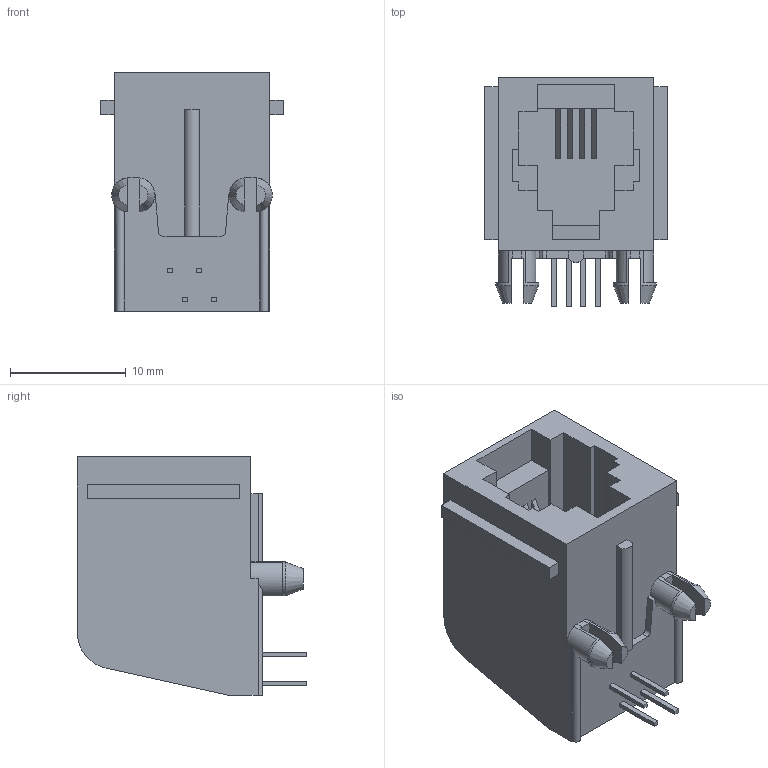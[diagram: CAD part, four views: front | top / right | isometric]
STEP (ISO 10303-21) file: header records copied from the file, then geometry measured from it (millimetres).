
FILE_DESCRIPTION (( 'STEP AP214' ), '1' );
FILE_NAME ('5520250-02.step', '2011-05-17T08:51:59', ( 'vpeshkov' ), ( 'licard' ), 'SwSTEP 2.0', 'SolidWorks 2009', '' );
FILE_SCHEMA (( 'AUTOMOTIVE_DESIGN' ));
Length unit declared in the file: mil
Products named in the file (1): 5520250-02
Bounding box: 15.75 x 19.81 x 20.57 mm (x, y, z)
Volume: 2786.3 mm3; surface area: 2394.7 mm2
Topology: 1 solids, 1 shells, 140 faces, 387 edges, 256 vertices
Faces by surface type: plane 122, cylinder 14, cone 4
Entity records: 4933 total; most frequent: CARTESIAN_POINT 850, ORIENTED_EDGE 774, DIRECTION 711, EDGE_CURVE 387, VECTOR 325, LINE 325, VERTEX_POINT 256, AXIS2_PLACEMENT_3D 193
